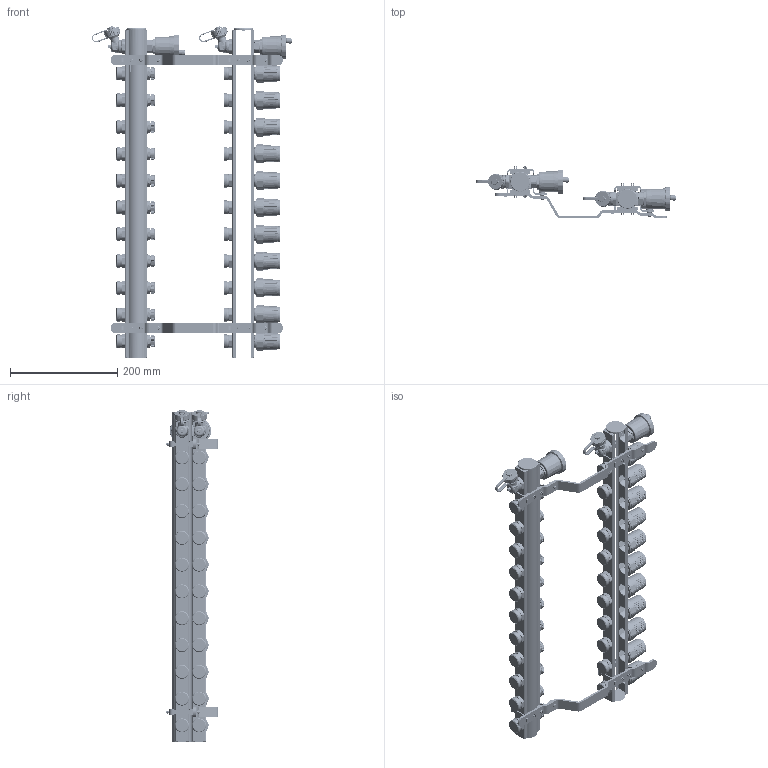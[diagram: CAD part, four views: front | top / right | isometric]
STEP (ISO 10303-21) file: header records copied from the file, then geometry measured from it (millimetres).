
FILE_DESCRIPTION(('STEP AP203'), '1');
FILE_NAME('VTc.594.EMNX.0611', '2025-11-26T12:58:14', ('verevichevva'), ('Vesta'), 'C3D Converter', 'C3D Toolkit', '');
FILE_SCHEMA(('CONFIG_CONTROL_DESIGN'));
Length unit declared in the file: millimetre
Products named in the file (1): ВР.622621.163.000 СБ
Bounding box: 374.1 x 97.53 x 619.67 mm (x, y, z)
Surface area: 386124.5 mm2 (no closed solid volume)
Topology: 0 solids, 1 shells, 16186 faces, 42479 edges, 25977 vertices
Faces by surface type: cylinder 4852, bspline 3922, plane 3502, torus 1869, cone 1635, sphere 406
Full cylindrical faces by diameter (mm): 4.2 x2, 6 x12, 6.8 x4, 7 x2, 8.352 x4, 8.4 x4, 9.5 x2, 11.2 x2, 11.5 x2, 12 x4, 16 x2, 17 x11, 18 x35, 20.8 x11, 21.5 x11, 23.3 x22, 24.5 x11, 25 x19, 25.8 x2, 26.1 x22, 28.4 x2, 33 x11, 34 x11
Entity records: 931839 total; most frequent: CARTESIAN_POINT 583343, ORIENTED_EDGE 82750, DIRECTION 57092, EDGE_CURVE 41381, VERTEX_POINT 25961, AXIS2_PLACEMENT_3D 23913, B_SPLINE_CURVE_WITH_KNOTS 20357, EDGE_LOOP 17252
